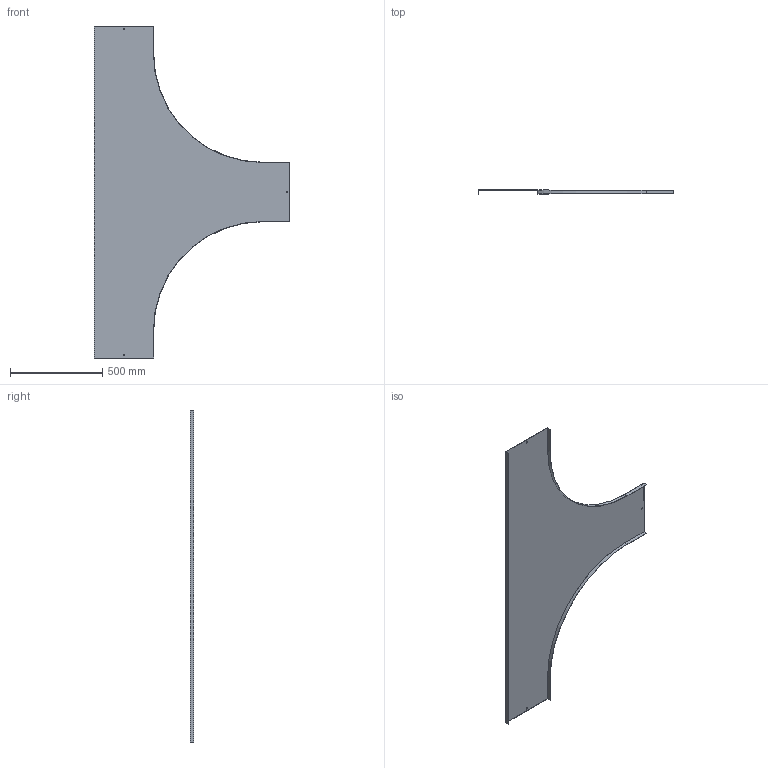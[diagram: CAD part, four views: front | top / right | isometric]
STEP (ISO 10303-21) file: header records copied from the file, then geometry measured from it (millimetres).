
FILE_DESCRIPTION (( 'STEP AP214' ), '1' );
FILE_NAME ('15N6P300.step', '2025-02-21T13:56:14', ( '' ), ( '' ), 'SwSTEP 2.0', 'SolidWorks 2023', '' );
FILE_SCHEMA (( 'AUTOMOTIVE_DESIGN' ));
Length unit declared in the file: millimetre
Products named in the file (1): 15N6P300
Bounding box: 1061.5 x 20 x 1800 mm (x, y, z)
Volume: 1570581 mm3; surface area: 2102240.7 mm2
Topology: 1 solids, 1 shells, 34 faces, 96 edges, 64 vertices
Faces by surface type: plane 30, cylinder 4
Entity records: 1123 total; most frequent: CARTESIAN_POINT 195, ORIENTED_EDGE 192, DIRECTION 174, EDGE_CURVE 96, VECTOR 88, LINE 88, VERTEX_POINT 64, AXIS2_PLACEMENT_3D 43
